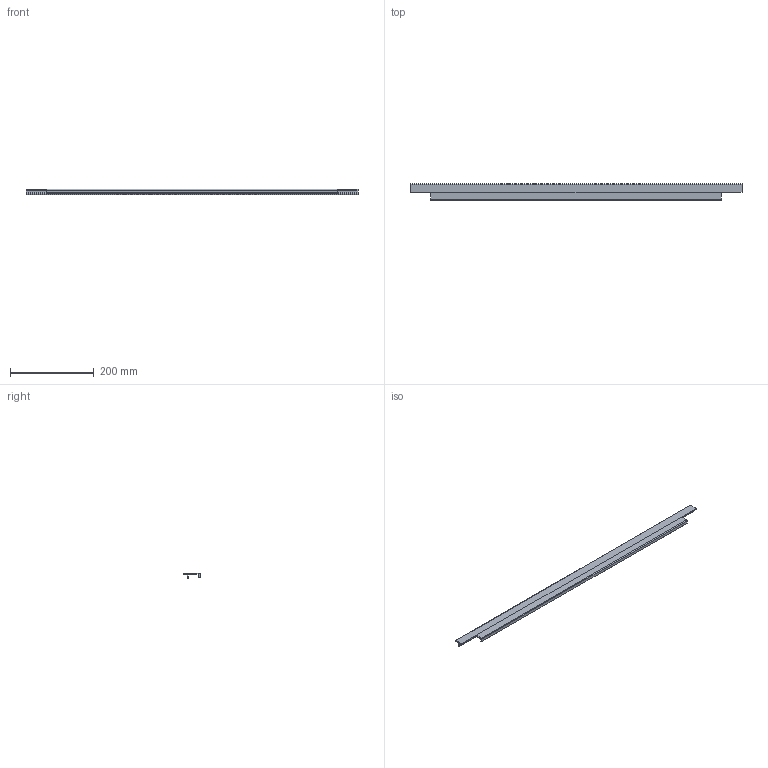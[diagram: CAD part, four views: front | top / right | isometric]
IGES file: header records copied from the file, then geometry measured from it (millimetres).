
Start section: Data from Parasolid IGES Translator 15.0.47, Copyright(c) 2006 Siemens P LM Software. All Rights Reserved.
Global section: file name: 9105823.igs; native system:  By UGS Corp.; preprocessor: XPlus GENERIC/IGES 3.0; author: Noname; organization: Noname; date: 20140122.180055; units: millimetre
Bounding box: 795 x 39 x 14 mm (x, y, z)
Surface area: 88689.2 mm2 (no closed solid volume)
Topology: 0 solids, 0 shells, 40 faces, 224 edges, 224 vertices
Faces by surface type: extrusion 30, revolution 10
